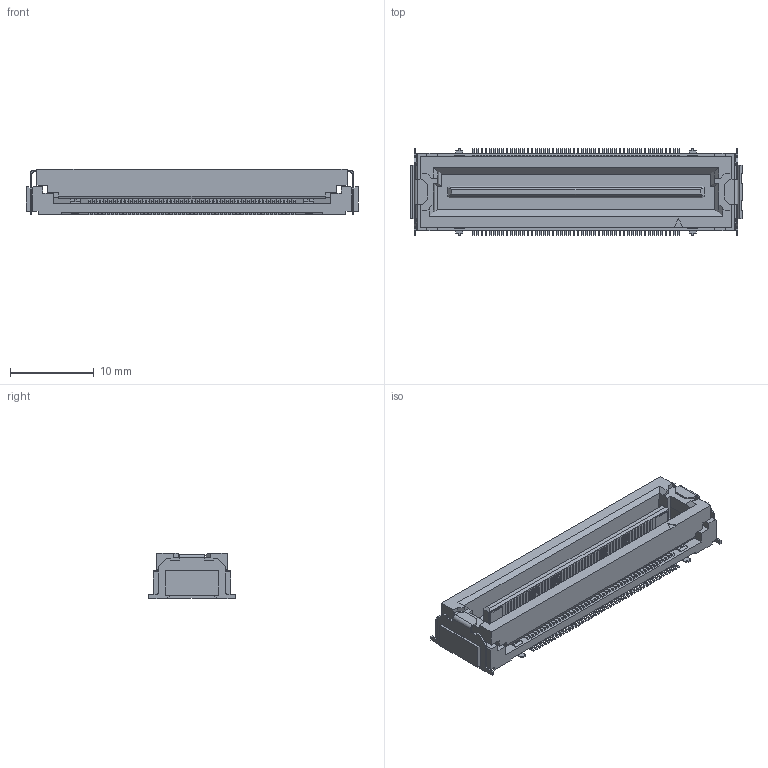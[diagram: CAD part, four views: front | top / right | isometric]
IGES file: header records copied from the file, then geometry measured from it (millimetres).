
Start section: SolidWorks IGES file using analytic representation for surfaces
Global section: file name: C:\Users\1390\Desktop\作業用\まとめ\DTコネクタ\●電源付き\3D\DT00E-100S-T.IGS; native system: SolidWorks 2023; preprocessor: SolidWorks 2023; author: 1390; date: 240606.101209; units: millimetre
Bounding box: 39.7 x 10.38 x 5.5 mm (x, y, z)
Surface area: 2566.8 mm2 (no closed solid volume)
Topology: 0 solids, 0 shells, 4098 faces, 27104 edges, 27104 vertices
Faces by surface type: bspline 3098, revolution 1000
